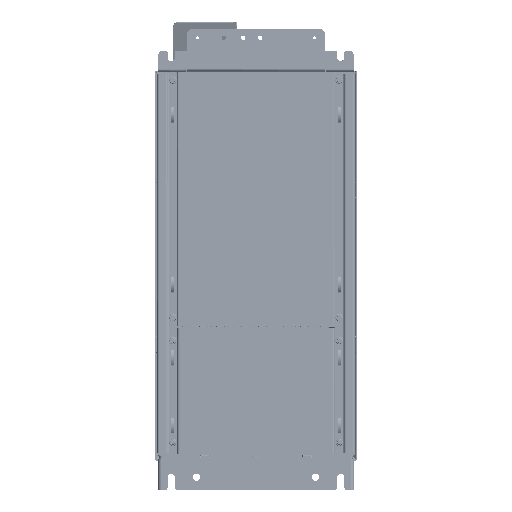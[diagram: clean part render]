
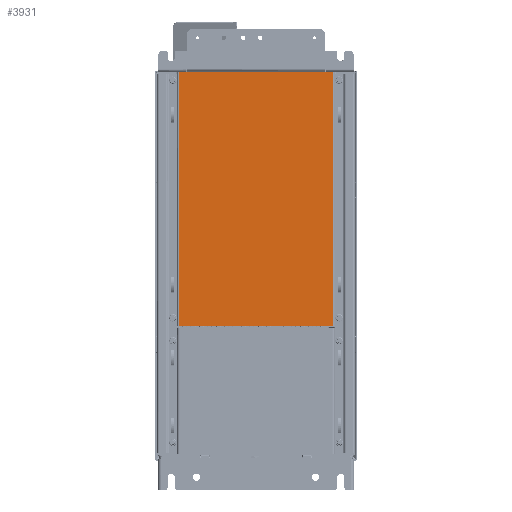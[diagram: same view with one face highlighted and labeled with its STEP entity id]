
A CAD part, front view. The second image highlights one B-rep face of the part: STEP entity #3931.
In plain terms, the highlighted planar face has unit normal (0, -1, 0).
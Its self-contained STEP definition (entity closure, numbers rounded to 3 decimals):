
#3931 = ADVANCED_FACE ( 'NONE', ( #260870 ), #106551, .T. ) ;
#13195 = ORIENTED_EDGE ( 'NONE', *, *, #87480, .T. ) ;
#18855 = DIRECTION ( 'NONE',  ( 0., 0., -1. ) ) ;
#19180 = DIRECTION ( 'NONE',  ( 0., -1., 0. ) ) ;
#22280 = CARTESIAN_POINT ( 'NONE',  ( -91., 0., 226. ) ) ;
#26271 = VERTEX_POINT ( 'NONE', #22280 ) ;
#30529 = CARTESIAN_POINT ( 'NONE',  ( 91., 0., -74. ) ) ;
#35915 = EDGE_CURVE ( 'NONE', #262271, #26271, #236497, .T. ) ;
#36896 = VECTOR ( 'NONE', #244443, 1000. ) ;
#48414 = VERTEX_POINT ( 'NONE', #30529 ) ;
#54970 = CARTESIAN_POINT ( 'NONE',  ( 91., 0., 226. ) ) ;
#65563 = CARTESIAN_POINT ( 'NONE',  ( 91., 0., -74.498 ) ) ;
#70296 = CARTESIAN_POINT ( 'NONE',  ( -91., 0., -74.498 ) ) ;
#77804 = AXIS2_PLACEMENT_3D ( 'NONE', #100361, #19180, #18855 ) ;
#82322 = CARTESIAN_POINT ( 'NONE',  ( -91., 0., -74. ) ) ;
#87480 = EDGE_CURVE ( 'NONE', #92884, #26271, #143525, .T. ) ;
#92884 = VERTEX_POINT ( 'NONE', #54970 ) ;
#95969 = EDGE_CURVE ( 'NONE', #262271, #48414, #201647, .T. ) ;
#100361 = CARTESIAN_POINT ( 'NONE',  ( 93., 0., 226. ) ) ;
#106551 = PLANE ( 'NONE',  #77804 ) ;
#117273 = LINE ( 'NONE', #65563, #220537 ) ;
#120351 = DIRECTION ( 'NONE',  ( -1., 0., 0. ) ) ;
#135349 = EDGE_CURVE ( 'NONE', #92884, #48414, #117273, .T. ) ;
#140416 = ORIENTED_EDGE ( 'NONE', *, *, #35915, .F. ) ;
#143525 = LINE ( 'NONE', #223144, #191997 ) ;
#181776 = VECTOR ( 'NONE', #214672, 1000. ) ;
#186108 = ORIENTED_EDGE ( 'NONE', *, *, #95969, .T. ) ;
#191997 = VECTOR ( 'NONE', #120351, 1000. ) ;
#201647 = LINE ( 'NONE', #223803, #36896 ) ;
#209940 = DIRECTION ( 'NONE',  ( 0., 0., -1. ) ) ;
#214672 = DIRECTION ( 'NONE',  ( 0., 0., 1. ) ) ;
#215343 = ORIENTED_EDGE ( 'NONE', *, *, #135349, .F. ) ;
#220537 = VECTOR ( 'NONE', #209940, 1000. ) ;
#223144 = CARTESIAN_POINT ( 'NONE',  ( 93., 0., 226. ) ) ;
#223803 = CARTESIAN_POINT ( 'NONE',  ( 93., 0., -74. ) ) ;
#236497 = LINE ( 'NONE', #70296, #181776 ) ;
#244443 = DIRECTION ( 'NONE',  ( 1., 0., 0. ) ) ;
#249536 = EDGE_LOOP ( 'NONE', ( #140416, #186108, #215343, #13195 ) ) ;
#260870 = FACE_OUTER_BOUND ( 'NONE', #249536, .T. ) ;
#262271 = VERTEX_POINT ( 'NONE', #82322 ) ;
